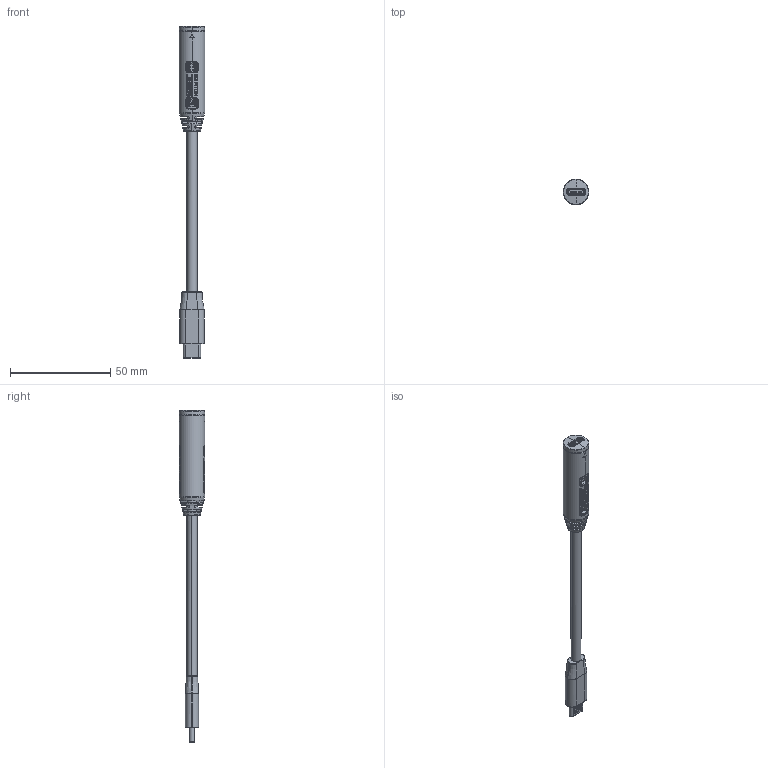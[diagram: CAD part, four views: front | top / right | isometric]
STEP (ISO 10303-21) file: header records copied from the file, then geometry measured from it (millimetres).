
FILE_DESCRIPTION (( 'STEP AP203' ), '1' );
FILE_NAME ('Piton_1.STEP', '2026-03-13T16:27:35', ( '' ), ( '' ), 'SwSTEP 2.0', 'SolidWorks 2024', '' );
FILE_SCHEMA (( 'CONFIG_CONTROL_DESIGN' ));
Length unit declared in the file: millimetre
Products named in the file (1): Piton_1
Bounding box: 12.7 x 12.7 x 165.46 mm (x, y, z)
Volume: 9253.7 mm3; surface area: 5621.7 mm2
Topology: 1 solids, 3 shells, 1897 faces, 5019 edges, 3268 vertices
Faces by surface type: bspline 790, plane 774, cylinder 263, torus 35, cone 33, sphere 2
Entity records: 86781 total; most frequent: CARTESIAN_POINT 46249, ORIENTED_EDGE 10038, DIRECTION 5820, EDGE_CURVE 5019, VERTEX_POINT 3268, VECTOR 2164, LINE 2164, EDGE_LOOP 2037
